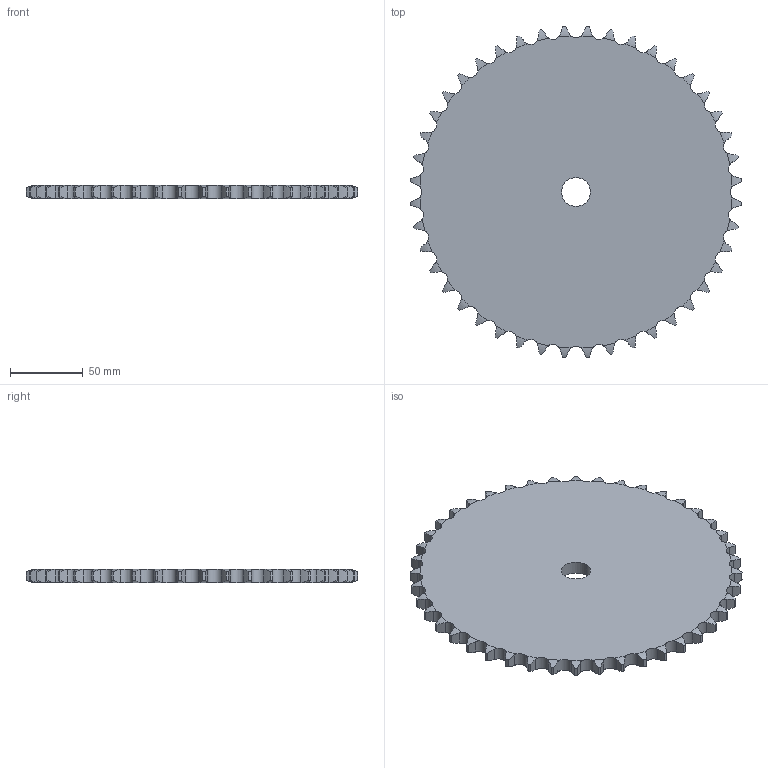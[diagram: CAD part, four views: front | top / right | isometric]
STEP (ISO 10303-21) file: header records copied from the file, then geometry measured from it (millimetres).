
FILE_DESCRIPTION((''),'2;1');
FILE_NAME('500-301-0044_PRT','2021-02-12T',('Brieden'),('Brieden'),'PRO/ENGINEER BY PARAMETRIC TECHNOLOGY CORPORATION, 2010160','PRO/ENGINEER BY PARAMETRIC TECHNOLOGY CORPORATION, 2010160','');
FILE_SCHEMA(('AUTOMOTIVE_DESIGN { 1 0 10303 214 1 1 1 1 }'));
Length unit declared in the file: millimetre
Products named in the file (1): 500-301-0044_PRT
Bounding box: 228.35 x 228.35 x 9.1 mm (x, y, z)
Volume: 337318.8 mm3; surface area: 83996.2 mm2
Topology: 1 solids, 1 shells, 268 faces, 798 edges, 532 vertices
Faces by surface type: cylinder 178, torus 88, plane 2
Entity records: 13132 total; most frequent: CARTESIAN_POINT 3899, ORIENTED_EDGE 1596, DIRECTION 1250, PRESENTATION_STYLE_ASSIGNMENT 799, STYLED_ITEM 799, CURVE_STYLE 798, EDGE_CURVE 798, AXIS2_PLACEMENT_3D 536
